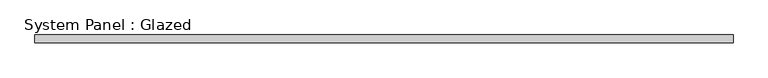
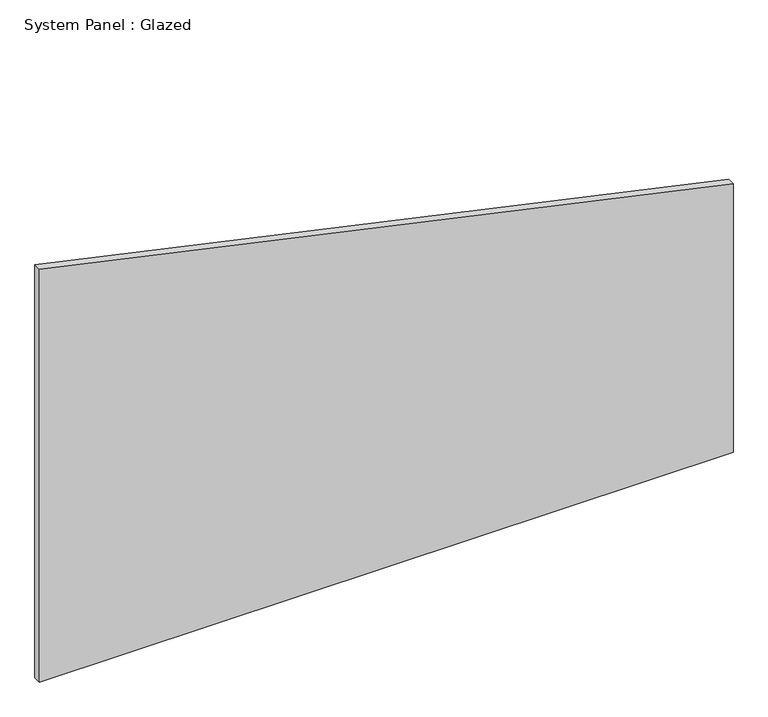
"""IFC4 building model written with IfcOpenShell, lengths in millimetres: plate geometry, System Panel : Glazed."""

from ifc_helpers import new_model, si_unit, frame, origin, place, context, project, spatial, polyline, outline, extrude, source, transform, mapped, element, save


def system_panel_glazed_a94a4bbf(model_context):
    return source(origin(), model_context, "Body", "SweptSolid", [
        extrude(outline(polyline([(0.0, -1139.2116781), (0.0, 1139.2116781), (933.1543999, 1139.2116781), (1434.1140891, -1139.2116781), (0.0, -1139.2116781)])), frame((0.0, -12.7, 0.0), z_axis=(0.0, 1.0, 0.0), x_axis=(0.0, 0.0, 1.0)), (0.0, 0.0, 1.0), 25.4),
    ])


if __name__ == "__main__":
    model = new_model("IFC4")
    model_context = context("Model", 3, world=origin())
    ifc_project = project(units=[si_unit("LENGTHUNIT", "METRE", prefix="MILLI")], contexts=[model_context])
    site = spatial("IfcSite", under=ifc_project)
    building = spatial("IfcBuilding", under=site)
    placement = place(None, origin())
    system_panel_glazed_shape = system_panel_glazed_a94a4bbf(model_context)
    element("IfcPlate", 1, ObjectType="System Panel : Glazed", at=placement, inside=building, context=model_context, shape_type="MappedRepresentation", body=[
        mapped(system_panel_glazed_shape, transform((0.0, 0.0, 0.0), x_axis=(1.0, 0.0, 0.0), y_axis=(0.0, 1.0, 0.0), z_axis=(0.0, 0.0, 1.0))),
    ])
    save(model, "model.ifc")
